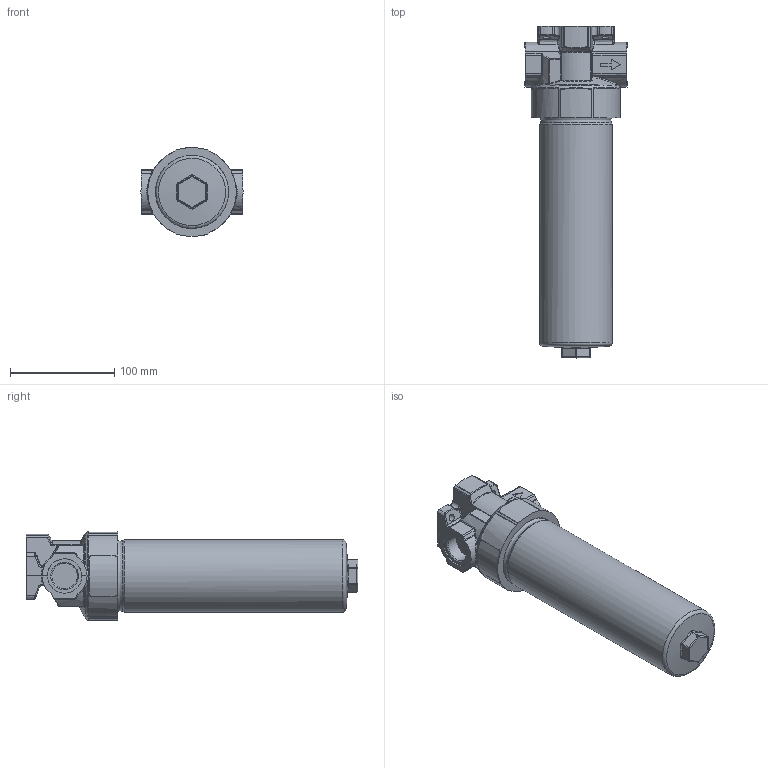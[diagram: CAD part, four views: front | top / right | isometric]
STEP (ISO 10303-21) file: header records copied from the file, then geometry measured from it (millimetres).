
FILE_DESCRIPTION((''),'2;1');
FILE_NAME('U:\Users\t.schleuter\D_152-153.stp','2013-05-13T14:20:46', ('User'),('SDRC'),'I-DEAS Master Series 9','UNIX','Yes');
FILE_SCHEMA(('AUTOMOTIVE_DESIGN { 1 0 10303 214 1 1 1 1 }'));
Length unit declared in the file: millimetre
Products named in the file (1): Druckfilter_D_152-153
Bounding box: 98 x 318.5 x 84.95 mm (x, y, z)
Volume: 1240456.7 mm3; surface area: 91646.1 mm2
Topology: 1 solids, 4 shells, 386 faces, 966 edges, 603 vertices
Faces by surface type: bspline 386
Entity records: 16272 total; most frequent: CARTESIAN_POINT 10968, ORIENTED_EDGE 1830, EDGE_CURVE 915, B_SPLINE_CURVE_WITH_KNOTS 584, VERTEX_POINT 543, EDGE_LOOP 400, FACE_OUTER_BOUND 386, ADVANCED_FACE 386
